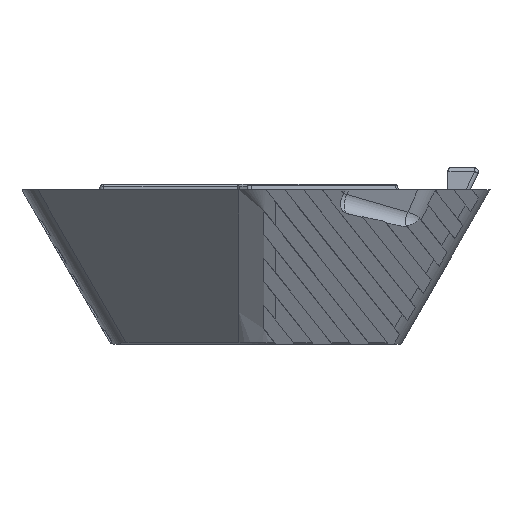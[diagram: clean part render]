
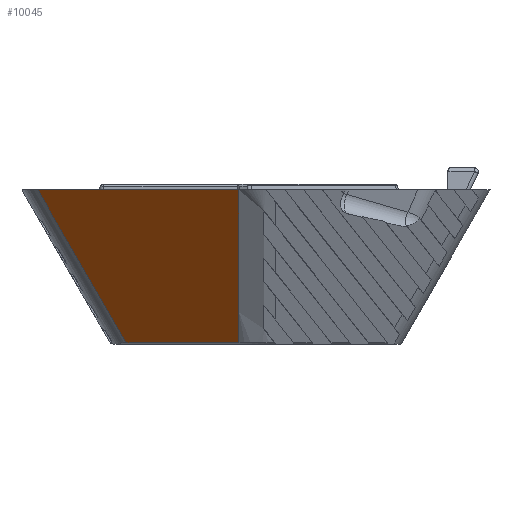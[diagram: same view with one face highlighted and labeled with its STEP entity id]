
A CAD part, left-side view. The second image highlights one B-rep face of the part: STEP entity #10045.
In plain terms, the highlighted planar face has unit normal (-0.75, 0.433, -0.5).
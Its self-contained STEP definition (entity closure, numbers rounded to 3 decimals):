
#956=FACE_OUTER_BOUND('',#1503,.T.);
#1503=EDGE_LOOP('',(#7674,#7675,#7676,#7677,#7678));
#2389=LINE('',#17536,#3345);
#2390=LINE('',#17538,#3346);
#2391=LINE('',#17540,#3347);
#2392=LINE('',#17542,#3348);
#2393=LINE('',#17543,#3349);
#3345=VECTOR('',#12331,10.);
#3346=VECTOR('',#12332,10.);
#3347=VECTOR('',#12333,1000.);
#3348=VECTOR('',#12334,1000.);
#3349=VECTOR('',#12335,10.);
#4411=VERTEX_POINT('',#17534);
#4412=VERTEX_POINT('',#17535);
#4413=VERTEX_POINT('',#17537);
#4414=VERTEX_POINT('',#17539);
#4415=VERTEX_POINT('',#17541);
#5646=EDGE_CURVE('',#4411,#4412,#2389,.T.);
#5647=EDGE_CURVE('',#4413,#4411,#2390,.T.);
#5648=EDGE_CURVE('',#4413,#4414,#2391,.T.);
#5649=EDGE_CURVE('',#4414,#4415,#2392,.T.);
#5650=EDGE_CURVE('',#4412,#4415,#2393,.T.);
#7674=ORIENTED_EDGE('',*,*,#5646,.F.);
#7675=ORIENTED_EDGE('',*,*,#5647,.F.);
#7676=ORIENTED_EDGE('',*,*,#5648,.T.);
#7677=ORIENTED_EDGE('',*,*,#5649,.T.);
#7678=ORIENTED_EDGE('',*,*,#5650,.F.);
#9576=PLANE('',#10710);
#10045=ADVANCED_FACE('',(#956),#9576,.F.);
#10710=AXIS2_PLACEMENT_3D('',#17533,#12329,#12330);
#12329=DIRECTION('center_axis',(0.75,-0.433,0.5));
#12330=DIRECTION('ref_axis',(0.657,0.572,-0.491));
#12331=DIRECTION('',(-0.277,0.48,0.832));
#12332=DIRECTION('',(0.5,0.866,0.));
#12333=DIRECTION('',(-0.555,0.,0.832));
#12334=DIRECTION('',(-0.555,0.,0.832));
#12335=DIRECTION('',(-0.5,-0.866,0.));
#17533=CARTESIAN_POINT('Origin',(-15.17,10.239,2.004));
#17534=CARTESIAN_POINT('',(-10.474,18.623,2.221));
#17535=CARTESIAN_POINT('',(-17.402,30.622,23.004));
#17536=CARTESIAN_POINT('',(-9.668,17.227,-0.196));
#17537=CARTESIAN_POINT('',(-19.356,3.239,2.221));
#17538=CARTESIAN_POINT('',(-15.278,10.302,2.221));
#17539=CARTESIAN_POINT('',(-22.099,3.239,6.335));
#17540=CARTESIAN_POINT('',(-19.212,3.239,2.004));
#17541=CARTESIAN_POINT('',(-33.212,3.239,23.004));
#17542=CARTESIAN_POINT('',(-19.212,3.239,2.004));
#17543=CARTESIAN_POINT('',(-26.374,15.082,23.004));
